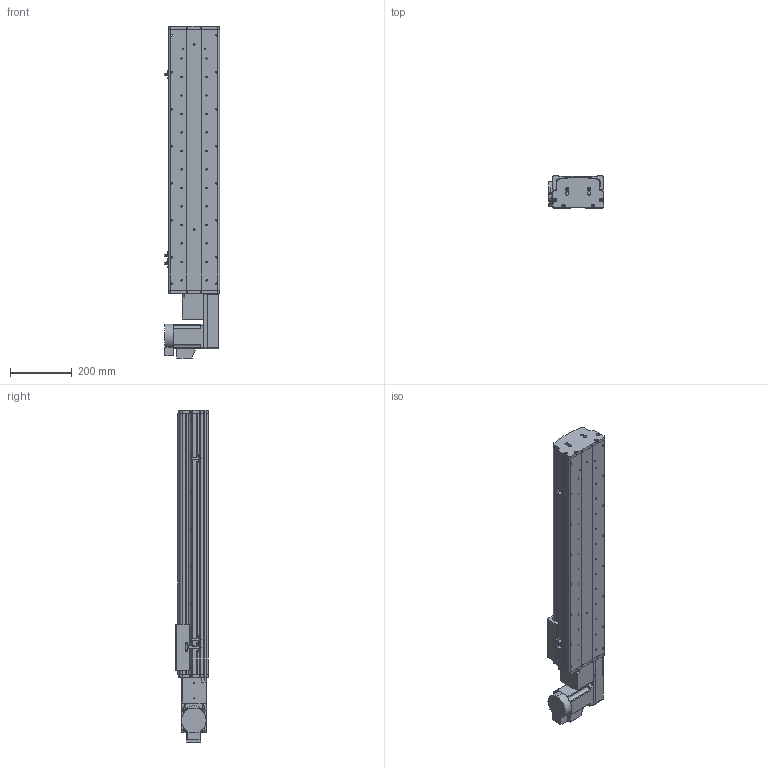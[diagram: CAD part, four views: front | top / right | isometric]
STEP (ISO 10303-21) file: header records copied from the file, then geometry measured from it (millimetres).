
FILE_DESCRIPTION (( 'STEP AP214' ), '1' );
FILE_NAME ('KSD165B-S600-MRB-CM .STEP', '2017-10-16T08:47:21', ( '微软用户' ), ( '微软中国' ), 'SwSTEP 2.0', 'SolidWorks 2014', '' );
FILE_SCHEMA (( 'AUTOMOTIVE_DESIGN' ));
Length unit declared in the file: millimetre
Products named in the file (17): KSD165B-S600-MRB-CM ; HTPA26S5M250-A-H8 750W萇儂蚚; HTPA26S5M250-A-H8 400W萇儂蚚 ; 130宽模组马达安装板连板左右折同步带; 130宽模组保护罩上下左右折-同步带; KSD165模组-同步带防尘盖1-600行程-最新版; KSD165模组同步带底板-600行程-最新; 拸秶雄ん750W侜督萇儂; 165宽马达安装板同步带右; U倰嫖萇假蚾璃; U倰嫖萇EEㄜSX672; 覜茼え68遵圉猾敕; KSD165模组-同步带-防撞垫2; KSD165模组同步带-防撞垫1; KSD165耀郪-ヶ傷啣1-肮祭湍; KSD165模组-后端板1-同步带; KSD165模组-同步带滑动座-最新版
Assembly tree (20 placements, depth 2):
  KSD165B-S600-MRB-CM 
    KSD165模组-同步带滑动座-最新版
    KSD165模组-后端板1-同步带
    KSD165耀郪-ヶ傷啣1-肮祭湍
    KSD165模组同步带-防撞垫1
    KSD165模组-同步带-防撞垫2
    覜茼え68遵圉猾敕
    U倰嫖萇EEㄜSX672  x3
    U倰嫖萇假蚾璃  x3
    165宽马达安装板同步带右
    拸秶雄ん750W侜督萇儂
    KSD165模组同步带底板-600行程-最新
    KSD165模组-同步带防尘盖1-600行程-最新版
    130宽模组保护罩上下左右折-同步带
    130宽模组马达安装板连板左右折同步带
    HTPA26S5M250-A-H8 400W萇儂蚚 
    HTPA26S5M250-A-H8 750W萇儂蚚
Bounding box: 178.7 x 104 x 1077.5 mm (x, y, z)
Volume: 6109509.1 mm3; surface area: 1416574 mm2
Topology: 21 solids, 21 shells, 1917 faces, 5406 edges, 3528 vertices
Faces by surface type: cylinder 1223, plane 582, cone 112
Entity records: 61820 total; most frequent: CARTESIAN_POINT 12688, DIRECTION 10194, ORIENTED_EDGE 9472, EDGE_CURVE 4736, AXIS2_PLACEMENT_3D 3992, VERTEX_POINT 3120, CIRCLE 2272, VECTOR 2210
